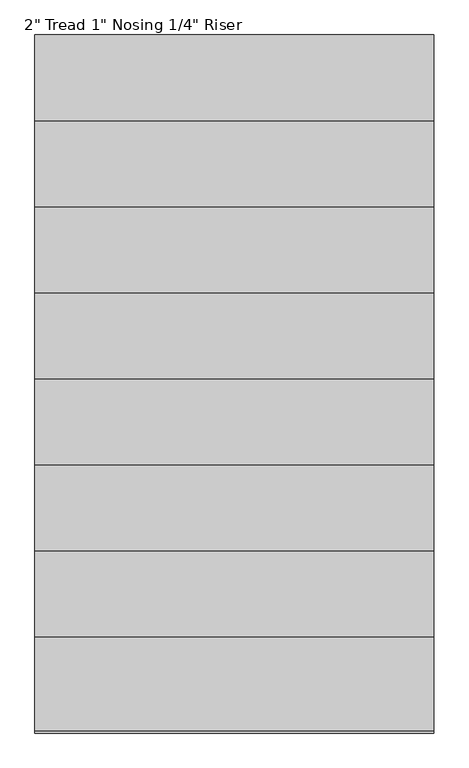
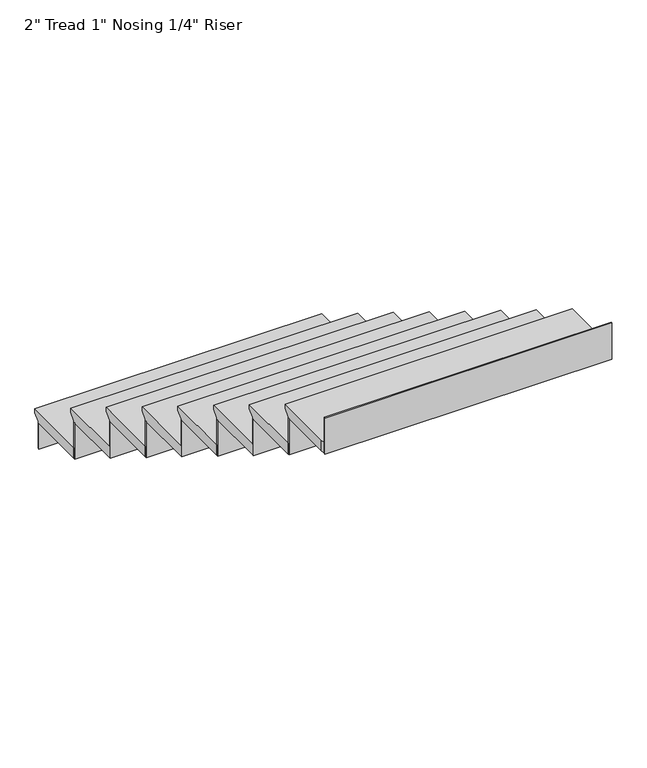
"""IFC4 building model written with IfcOpenShell, lengths in millimetres: stair flight geometry."""

from ifc_helpers import new_model, si_unit, origin, place, context, project, spatial, faceted_brep, source, transform, mapped, element, save


def stair_flight_4e9d6097(model_context):
    return source(origin(), model_context, "Body", "Brep", [
        faceted_brep([(16154.1309087, 4241.8, 306.07), (16154.1309087, 4241.8, 325.12), (17449.81205, 4241.8, 325.12), (17449.81205, 4241.8, 306.07), (16154.1309087, 4216.4, 280.67), (17449.81205, 4216.4, 280.67), (16154.1309087, 3937.0, 325.12), (17449.81205, 3937.0, 325.12), (17449.81205, 4216.4, 274.32), (17449.81205, 3937.0, 274.32), (16154.1309087, 3937.0, 274.32), (16154.1309087, 4216.4, 274.32)], [[[0, 1, 2, 3]], [[4, 0, 3, 5]], [[2, 1, 6, 7]], [[8, 9, 10, 11]], [[2, 7, 9, 8, 5, 3]], [[8, 11, 4, 5]], [[6, 1, 0, 4, 11, 10]], [[7, 6, 10, 9]]]),
        faceted_brep([(16154.1309087, 4216.4, 274.32), (16154.1309087, 4216.4, 152.4), (16154.1309087, 4210.05, 152.4), (16154.1309087, 4210.05, 274.32), (17449.81205, 4216.4, 274.32), (17449.81205, 4210.05, 274.32), (17449.81205, 4210.05, 152.4), (17449.81205, 4216.4, 152.4)], [[[0, 1, 2, 3]], [[4, 5, 6, 7]], [[1, 0, 4, 7]], [[2, 1, 7, 6]], [[3, 2, 6, 5]], [[0, 3, 5, 4]]]),
        faceted_brep([(16154.1309087, 3937.0, 447.04), (16154.1309087, 3937.0, 274.32), (16154.1309087, 3930.65, 274.32), (16154.1309087, 3930.65, 447.04), (17449.81205, 3937.0, 447.04), (17449.81205, 3930.65, 447.04), (17449.81205, 3930.65, 274.32), (17449.81205, 3937.0, 274.32)], [[[0, 1, 2, 3]], [[4, 5, 6, 7]], [[1, 0, 4, 7]], [[2, 1, 7, 6]], [[3, 2, 6, 5]], [[0, 3, 5, 4]]]),
        faceted_brep([(17449.81205, 3962.4, 497.84), (16154.1309087, 3962.4, 497.84), (16154.1309087, 3657.6, 497.84), (17449.81205, 3657.6, 497.84), (17449.81205, 3937.0, 447.04), (17449.81205, 3657.6, 447.04), (16154.1309087, 3657.6, 447.04), (16154.1309087, 3937.0, 447.04), (17449.81205, 3937.0, 453.39), (17449.81205, 3962.4, 478.79), (16154.1309087, 3937.0, 453.39), (16154.1309087, 3962.4, 478.79)], [[[0, 1, 2, 3]], [[4, 5, 6, 7]], [[0, 3, 5, 4, 8, 9]], [[4, 7, 10, 8]], [[2, 1, 11, 10, 7, 6]], [[3, 2, 6, 5]], [[11, 1, 0, 9]], [[10, 11, 9, 8]]]),
        faceted_brep([(16154.1309087, 3657.6, 619.76), (16154.1309087, 3657.6, 447.04), (16154.1309087, 3651.25, 447.04), (16154.1309087, 3651.25, 619.76), (17449.81205, 3657.6, 619.76), (17449.81205, 3651.25, 619.76), (17449.81205, 3651.25, 447.04), (17449.81205, 3657.6, 447.04)], [[[0, 1, 2, 3]], [[4, 5, 6, 7]], [[1, 0, 4, 7]], [[2, 1, 7, 6]], [[3, 2, 6, 5]], [[0, 3, 5, 4]]]),
        faceted_brep([(17449.81205, 3683.0, 670.56), (16154.1309087, 3683.0, 670.56), (16154.1309087, 3378.2, 670.56), (17449.81205, 3378.2, 670.56), (17449.81205, 3657.6, 619.76), (17449.81205, 3378.2, 619.76), (16154.1309087, 3378.2, 619.76), (16154.1309087, 3657.6, 619.76), (17449.81205, 3657.6, 626.11), (17449.81205, 3683.0, 651.51), (16154.1309087, 3657.6, 626.11), (16154.1309087, 3683.0, 651.51)], [[[0, 1, 2, 3]], [[4, 5, 6, 7]], [[0, 3, 5, 4, 8, 9]], [[4, 7, 10, 8]], [[2, 1, 11, 10, 7, 6]], [[3, 2, 6, 5]], [[11, 1, 0, 9]], [[10, 11, 9, 8]]]),
        faceted_brep([(16154.1309087, 3378.2, 792.48), (16154.1309087, 3378.2, 619.76), (16154.1309087, 3371.85, 619.76), (16154.1309087, 3371.85, 792.48), (17449.81205, 3378.2, 792.48), (17449.81205, 3371.85, 792.48), (17449.81205, 3371.85, 619.76), (17449.81205, 3378.2, 619.76)], [[[0, 1, 2, 3]], [[4, 5, 6, 7]], [[1, 0, 4, 7]], [[2, 1, 7, 6]], [[3, 2, 6, 5]], [[0, 3, 5, 4]]]),
        faceted_brep([(17449.81205, 3403.6, 843.28), (16154.1309087, 3403.6, 843.28), (16154.1309087, 3098.8, 843.28), (17449.81205, 3098.8, 843.28), (17449.81205, 3378.2, 792.48), (17449.81205, 3098.8, 792.48), (16154.1309087, 3098.8, 792.48), (16154.1309087, 3378.2, 792.48), (17449.81205, 3378.2, 798.83), (17449.81205, 3403.6, 824.23), (16154.1309087, 3378.2, 798.83), (16154.1309087, 3403.6, 824.23)], [[[0, 1, 2, 3]], [[4, 5, 6, 7]], [[0, 3, 5, 4, 8, 9]], [[4, 7, 10, 8]], [[2, 1, 11, 10, 7, 6]], [[3, 2, 6, 5]], [[11, 1, 0, 9]], [[10, 11, 9, 8]]]),
        faceted_brep([(16154.1309087, 3098.8, 965.2), (16154.1309087, 3098.8, 792.48), (16154.1309087, 3092.45, 792.48), (16154.1309087, 3092.45, 965.2), (17449.81205, 3098.8, 965.2), (17449.81205, 3092.45, 965.2), (17449.81205, 3092.45, 792.48), (17449.81205, 3098.8, 792.48)], [[[0, 1, 2, 3]], [[4, 5, 6, 7]], [[1, 0, 4, 7]], [[2, 1, 7, 6]], [[3, 2, 6, 5]], [[0, 3, 5, 4]]]),
        faceted_brep([(17449.81205, 3124.2, 1016.0), (16154.1309087, 3124.2, 1016.0), (16154.1309087, 2819.4, 1016.0), (17449.81205, 2819.4, 1016.0), (17449.81205, 3098.8, 965.2), (17449.81205, 2819.4, 965.2), (16154.1309087, 2819.4, 965.2), (16154.1309087, 3098.8, 965.2), (17449.81205, 3098.8, 971.55), (17449.81205, 3124.2, 996.95), (16154.1309087, 3098.8, 971.55), (16154.1309087, 3124.2, 996.95)], [[[0, 1, 2, 3]], [[4, 5, 6, 7]], [[0, 3, 5, 4, 8, 9]], [[4, 7, 10, 8]], [[2, 1, 11, 10, 7, 6]], [[3, 2, 6, 5]], [[11, 1, 0, 9]], [[10, 11, 9, 8]]]),
        faceted_brep([(16154.1309087, 2819.4, 1137.92), (16154.1309087, 2819.4, 965.2), (16154.1309087, 2813.05, 965.2), (16154.1309087, 2813.05, 1137.92), (17449.81205, 2819.4, 1137.92), (17449.81205, 2813.05, 1137.92), (17449.81205, 2813.05, 965.2), (17449.81205, 2819.4, 965.2)], [[[0, 1, 2, 3]], [[4, 5, 6, 7]], [[1, 0, 4, 7]], [[2, 1, 7, 6]], [[3, 2, 6, 5]], [[0, 3, 5, 4]]]),
        faceted_brep([(17449.81205, 2844.8, 1188.72), (16154.1309087, 2844.8, 1188.72), (16154.1309087, 2540.0, 1188.72), (17449.81205, 2540.0, 1188.72), (17449.81205, 2819.4, 1137.92), (17449.81205, 2540.0, 1137.92), (16154.1309087, 2540.0, 1137.92), (16154.1309087, 2819.4, 1137.92), (17449.81205, 2819.4, 1144.27), (17449.81205, 2844.8, 1169.67), (16154.1309087, 2819.4, 1144.27), (16154.1309087, 2844.8, 1169.67)], [[[0, 1, 2, 3]], [[4, 5, 6, 7]], [[0, 3, 5, 4, 8, 9]], [[4, 7, 10, 8]], [[2, 1, 11, 10, 7, 6]], [[3, 2, 6, 5]], [[11, 1, 0, 9]], [[10, 11, 9, 8]]]),
        faceted_brep([(16154.1309087, 2540.0, 1310.64), (16154.1309087, 2540.0, 1137.92), (16154.1309087, 2533.65, 1137.92), (16154.1309087, 2533.65, 1310.64), (17449.81205, 2540.0, 1310.64), (17449.81205, 2533.65, 1310.64), (17449.81205, 2533.65, 1137.92), (17449.81205, 2540.0, 1137.92)], [[[0, 1, 2, 3]], [[4, 5, 6, 7]], [[1, 0, 4, 7]], [[2, 1, 7, 6]], [[3, 2, 6, 5]], [[0, 3, 5, 4]]]),
        faceted_brep([(17449.81205, 2565.4, 1361.44), (16154.1309087, 2565.4, 1361.44), (16154.1309087, 2260.6, 1361.44), (17449.81205, 2260.6, 1361.44), (17449.81205, 2540.0, 1310.64), (17449.81205, 2260.6, 1310.64), (16154.1309087, 2260.6, 1310.64), (16154.1309087, 2540.0, 1310.64), (17449.81205, 2540.0, 1316.99), (17449.81205, 2565.4, 1342.39), (16154.1309087, 2540.0, 1316.99), (16154.1309087, 2565.4, 1342.39)], [[[0, 1, 2, 3]], [[4, 5, 6, 7]], [[0, 3, 5, 4, 8, 9]], [[4, 7, 10, 8]], [[2, 1, 11, 10, 7, 6]], [[3, 2, 6, 5]], [[11, 1, 0, 9]], [[10, 11, 9, 8]]]),
        faceted_brep([(16154.1309087, 1981.2, 1656.08), (16154.1309087, 1981.2, 1483.36), (16154.1309087, 1974.85, 1483.36), (16154.1309087, 1974.85, 1656.08), (17449.81205, 1981.2, 1656.08), (17449.81205, 1974.85, 1656.08), (17449.81205, 1974.85, 1483.36), (17449.81205, 1981.2, 1483.36)], [[[0, 1, 2, 3]], [[4, 5, 6, 7]], [[1, 0, 4, 7]], [[2, 1, 7, 6]], [[3, 2, 6, 5]], [[0, 3, 5, 4]]]),
        faceted_brep([(16154.1309087, 2260.6, 1483.36), (16154.1309087, 2260.6, 1310.64), (16154.1309087, 2254.25, 1310.64), (16154.1309087, 2254.25, 1483.36), (17449.81205, 2260.6, 1483.36), (17449.81205, 2254.25, 1483.36), (17449.81205, 2254.25, 1310.64), (17449.81205, 2260.6, 1310.64)], [[[0, 1, 2, 3]], [[4, 5, 6, 7]], [[1, 0, 4, 7]], [[2, 1, 7, 6]], [[3, 2, 6, 5]], [[0, 3, 5, 4]]]),
        faceted_brep([(17449.81205, 2286.0, 1534.16), (16154.1309087, 2286.0, 1534.16), (16154.1309087, 2006.6, 1534.16), (16154.1309087, 1981.2, 1534.16), (17449.81205, 1981.2, 1534.16), (17449.81205, 2260.6, 1483.36), (17449.81205, 1981.2, 1483.36), (16154.1309087, 1981.2, 1483.36), (16154.1309087, 2006.6, 1483.36), (16154.1309087, 2260.6, 1483.36), (17449.81205, 2260.6, 1489.71), (17449.81205, 2286.0, 1515.11), (16154.1309087, 2260.6, 1489.71), (16154.1309087, 2286.0, 1515.11)], [[[0, 1, 2, 3, 4]], [[5, 6, 7, 8, 9]], [[0, 4, 6, 5, 10, 11]], [[5, 9, 12, 10]], [[2, 1, 13, 12, 9, 8]], [[3, 2, 8, 7]], [[4, 3, 7, 6]], [[13, 1, 0, 11]], [[12, 13, 11, 10]]]),
    ])


if __name__ == "__main__":
    model = new_model("IFC4")
    model_context = context("Model", 3, world=origin())
    ifc_project = project(units=[si_unit("LENGTHUNIT", "METRE", prefix="MILLI")], contexts=[model_context])
    site = spatial("IfcSite", under=ifc_project)
    building = spatial("IfcBuilding", under=site)
    placement = place(None, origin())
    stair_flight_shape = stair_flight_4e9d6097(model_context)
    element("IfcStairFlight", 1, ObjectType="2\" Tread 1\" Nosing 1/4\" Riser", at=placement, inside=building, context=model_context, shape_type="MappedRepresentation", body=[
        mapped(stair_flight_shape, transform((0.0, 0.0, 0.0), x_axis=(1.0, 0.0, 0.0), y_axis=(0.0, 1.0, 0.0), z_axis=(0.0, 0.0, 1.0))),
    ])
    save(model, "model.ifc")
